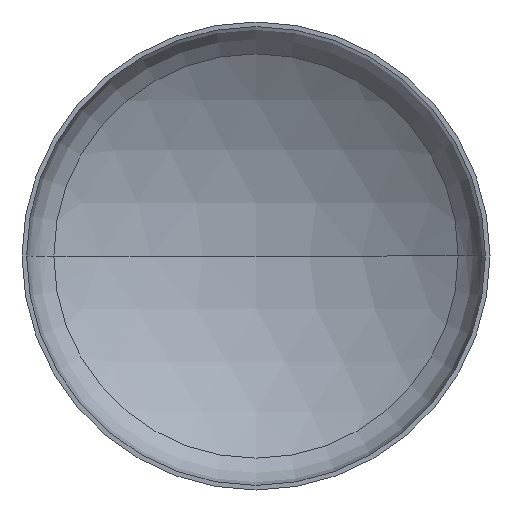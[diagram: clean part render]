
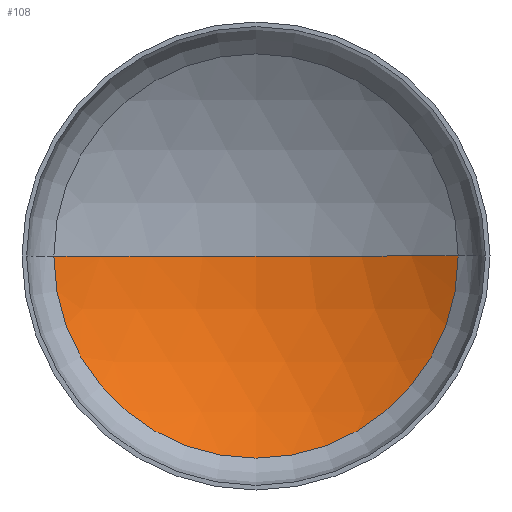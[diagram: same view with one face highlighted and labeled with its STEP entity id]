
A CAD part, front view. The second image highlights one B-rep face of the part: STEP entity #108.
In plain terms, the highlighted spherical face has radius 317.12 mm.
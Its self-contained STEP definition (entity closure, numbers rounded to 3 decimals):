
#7 = EDGE_LOOP ( 'NONE', ( #266, #235, #247 ) ) ;
#9 = EDGE_CURVE ( 'NONE', #136, #206, #195, .T. ) ;
#20 = SPHERICAL_SURFACE ( 'NONE', #386, 317.12 ) ;
#63 = CIRCLE ( 'NONE', #152, 175.559 ) ;
#84 = CIRCLE ( 'NONE', #287, 317.12 ) ;
#102 = VERTEX_POINT ( 'NONE', #397 ) ;
#108 = ADVANCED_FACE ( 'NONE', ( #367 ), #20, .F. ) ;
#109 = CARTESIAN_POINT ( 'NONE',  ( 0., -201.12, 0. ) ) ;
#136 = VERTEX_POINT ( 'NONE', #257 ) ;
#148 = CARTESIAN_POINT ( 'NONE',  ( 0., -201.12, 0. ) ) ;
#152 = AXIS2_PLACEMENT_3D ( 'NONE', #290, #229, #354 ) ;
#195 = CIRCLE ( 'NONE', #246, 317.12 ) ;
#206 = VERTEX_POINT ( 'NONE', #262 ) ;
#208 = CARTESIAN_POINT ( 'NONE',  ( 0., -201.12, 0. ) ) ;
#229 = DIRECTION ( 'NONE',  ( 0., 1., 0. ) ) ;
#235 = ORIENTED_EDGE ( 'NONE', *, *, #9, .T. ) ;
#246 = AXIS2_PLACEMENT_3D ( 'NONE', #208, #333, #311 ) ;
#247 = ORIENTED_EDGE ( 'NONE', *, *, #324, .F. ) ;
#257 = CARTESIAN_POINT ( 'NONE',  ( 175.559, 62.971, 0. ) ) ;
#262 = CARTESIAN_POINT ( 'NONE',  ( 0., 116., 0. ) ) ;
#266 = ORIENTED_EDGE ( 'NONE', *, *, #279, .F. ) ;
#279 = EDGE_CURVE ( 'NONE', #136, #102, #63, .T. ) ;
#287 = AXIS2_PLACEMENT_3D ( 'NONE', #109, #294, #335 ) ;
#290 = CARTESIAN_POINT ( 'NONE',  ( 0., 62.971, 0. ) ) ;
#294 = DIRECTION ( 'NONE',  ( 0., 0., -1. ) ) ;
#311 = DIRECTION ( 'NONE',  ( 1., 0., 0. ) ) ;
#324 = EDGE_CURVE ( 'NONE', #102, #206, #84, .T. ) ;
#333 = DIRECTION ( 'NONE',  ( 0., 0., 1. ) ) ;
#335 = DIRECTION ( 'NONE',  ( -1., 0., 0. ) ) ;
#354 = DIRECTION ( 'NONE',  ( -1., 0., 0. ) ) ;
#367 = FACE_OUTER_BOUND ( 'NONE', #7, .T. ) ;
#370 = DIRECTION ( 'NONE',  ( -1., 0., 0. ) ) ;
#386 = AXIS2_PLACEMENT_3D ( 'NONE', #148, #402, #370 ) ;
#397 = CARTESIAN_POINT ( 'NONE',  ( -175.559, 62.971, 0. ) ) ;
#402 = DIRECTION ( 'NONE',  ( 0., 0., 1. ) ) ;
